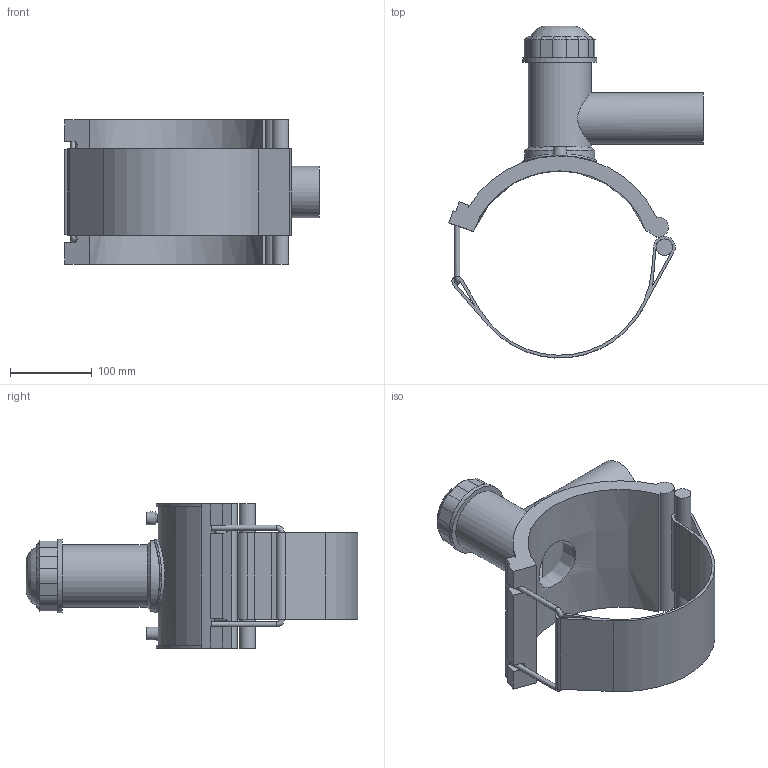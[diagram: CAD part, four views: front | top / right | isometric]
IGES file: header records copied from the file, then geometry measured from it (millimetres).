
Global section: file name: 496304225063.ipt; native system: Autodesk Inventor 2015; preprocessor: unknown; author: KIM; date: 20190124.131231; units: millimetre
Bounding box: 310.32 x 405.2 x 176 mm (x, y, z)
Volume: 1713513.2 mm3; surface area: 374625.4 mm2
Topology: 2 solids, 2 shells, 121 faces, 301 edges, 191 vertices
Faces by surface type: plane 68, cylinder 29, revolution 12, cone 11, bspline 1
Full cylindrical faces by diameter (mm): 4 x2, 6.3 x2, 19.904 x1, 63 x1, 76.5 x1, 85.5 x1, 90 x2
